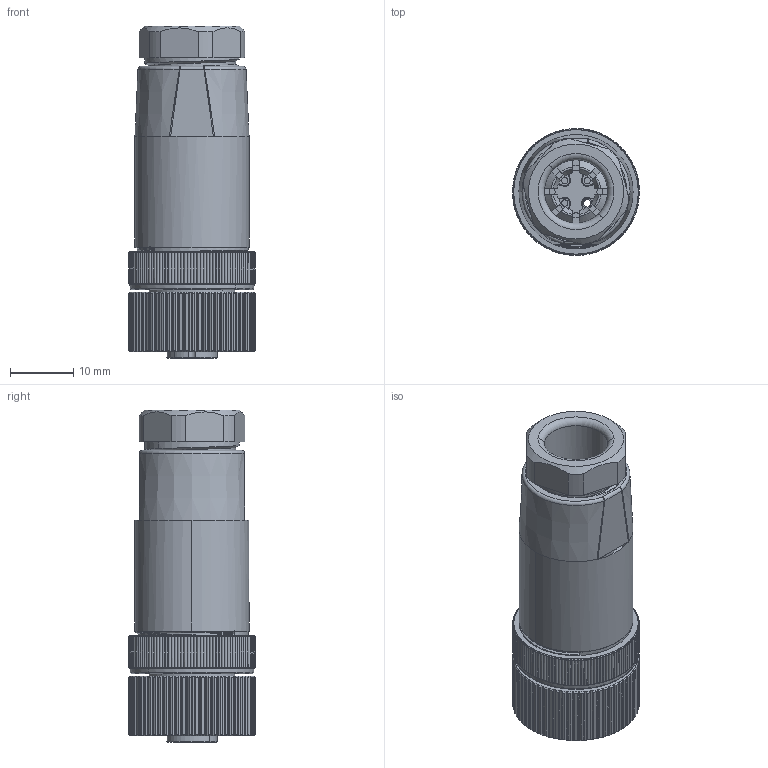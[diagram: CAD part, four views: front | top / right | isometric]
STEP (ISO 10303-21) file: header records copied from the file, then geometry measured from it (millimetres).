
FILE_DESCRIPTION((''),'2;1');
FILE_NAME('XC-M12-WK-PG9','2025-06-20T16:21:51',('lyj'),(''),'CREO PARAMETRIC BY PTC INC, 2019010','CREO PARAMETRIC BY PTC INC, 2019010','');
FILE_SCHEMA(('CONFIG_CONTROL_DESIGN'));
Products named in the file (1): XC-M12-WK-PG9
Bounding box: 20 x 20 x 52.38 mm (x, y, z)
Volume: 8822.2 mm3; surface area: 11497.4 mm2
Topology: 1 solids, 7 shells, 1518 faces, 4127 edges, 2650 vertices
Faces by surface type: cylinder 610, cone 432, plane 370, bspline 45, extrusion 29, torus 28, sphere 4
Entity records: 74199 total; most frequent: CARTESIAN_POINT 37558, ORIENTED_EDGE 8246, DIRECTION 6992, EDGE_CURVE 4123, AXIS2_PLACEMENT_3D 2790, VERTEX_POINT 2650, EDGE_LOOP 1593, FACE_OUTER_BOUND 1518
